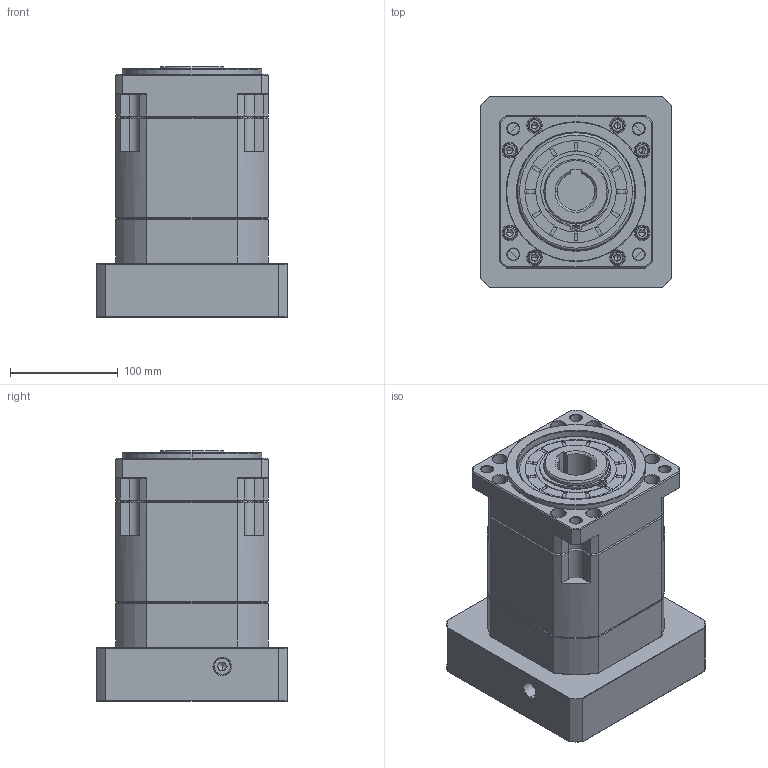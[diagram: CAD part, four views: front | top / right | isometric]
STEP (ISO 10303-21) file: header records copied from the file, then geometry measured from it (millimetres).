
FILE_DESCRIPTION (( 'STEP AP214' ), '1' );
FILE_NAME ('ZB142A-K35-L2-35-150-200-M12.step', '2023-03-17T10:50:00', ( '' ), ( '' ), 'SwSTEP 2.0', 'SolidWorks 2016', '' );
FILE_SCHEMA (( 'AUTOMOTIVE_DESIGN' ));
Length unit declared in the file: millimetre
Products named in the file (1): ZB142A-K35-L2-35-150-200-M12
Bounding box: 178 x 178 x 233.2 mm (x, y, z)
Volume: 4357951.7 mm3; surface area: 332485.5 mm2
Topology: 6 solids, 6 shells, 1965 faces, 5199 edges, 3332 vertices
Faces by surface type: plane 916, cylinder 377, cone 346, bspline 306, torus 20
Entity records: 107081 total; most frequent: CARTESIAN_POINT 39030, ORIENTED_EDGE 10342, DIRECTION 8576, EDGE_CURVE 5171, VERTEX_POINT 3332, VECTOR 3206, LINE 3206, AXIS2_PLACEMENT_3D 2685
